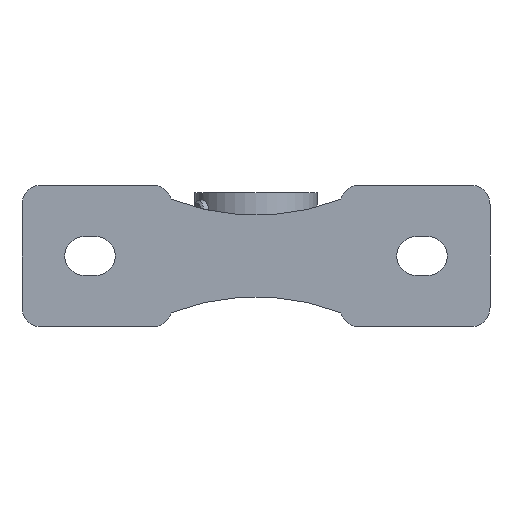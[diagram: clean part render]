
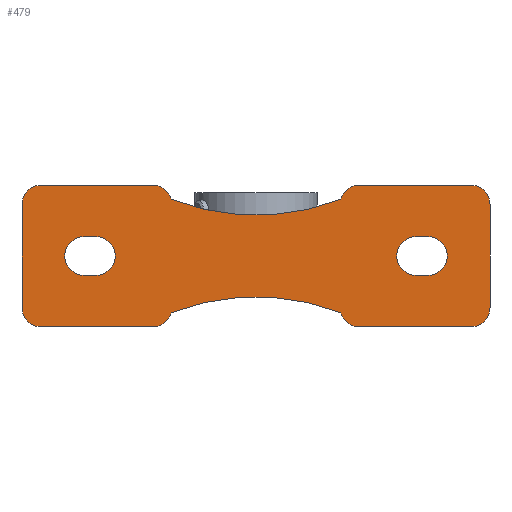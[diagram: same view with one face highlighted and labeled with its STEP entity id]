
A CAD part, front view. The second image highlights one B-rep face of the part: STEP entity #479.
In plain terms, the highlighted planar face has unit normal (0, -1, 0).
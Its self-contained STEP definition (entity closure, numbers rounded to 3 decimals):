
#262=CARTESIAN_POINT('',(0.,-63.5,0.));
#263=DIRECTION('',(0.0,1.0,0.0));
#264=DIRECTION('',(0.0,0.0,1.0));
#265=AXIS2_PLACEMENT_3D('',#262,#263,#264);
#266=PLANE('',#265);
#267=CARTESIAN_POINT('',(43.5,-63.5,29.162));
#268=VERTEX_POINT('',#267);
#269=CARTESIAN_POINT('',(53.139,-63.5,36.5));
#270=VERTEX_POINT('',#269);
#271=CARTESIAN_POINT('',(53.139,-63.5,26.5));
#272=DIRECTION('',(0.0,1.0,0.0));
#273=DIRECTION('',(-0.964,0.0,0.266));
#274=AXIS2_PLACEMENT_3D('',#271,#272,#273);
#275=CIRCLE('',#274,10.0);
#276=EDGE_CURVE('',#268,#270,#275,.T.);
#277=ORIENTED_EDGE('',*,*,#276,.F.);
#278=CARTESIAN_POINT('',(-43.5,-63.5,29.162));
#279=VERTEX_POINT('',#278);
#280=CARTESIAN_POINT('',(0.,-63.5,141.0));
#281=DIRECTION('',(0.0,-1.0,0.0));
#282=DIRECTION('',(1.0,0.0,0.0));
#283=AXIS2_PLACEMENT_3D('',#280,#281,#282);
#284=CIRCLE('',#283,120.0);
#285=EDGE_CURVE('',#279,#268,#284,.T.);
#286=ORIENTED_EDGE('',*,*,#285,.F.);
#287=CARTESIAN_POINT('',(-53.139,-63.5,36.5));
#288=VERTEX_POINT('',#287);
#289=CARTESIAN_POINT('',(-53.139,-63.5,26.5));
#290=DIRECTION('',(0.0,1.0,0.0));
#291=DIRECTION('',(0.964,0.0,0.266));
#292=AXIS2_PLACEMENT_3D('',#289,#290,#291);
#293=CIRCLE('',#292,10.);
#294=EDGE_CURVE('',#288,#279,#293,.T.);
#295=ORIENTED_EDGE('',*,*,#294,.F.);
#296=CARTESIAN_POINT('',(-110.5,-63.5,36.5));
#297=VERTEX_POINT('',#296);
#298=CARTESIAN_POINT('',(-110.5,-63.5,36.5));
#299=DIRECTION('',(1.0,0.0,0.0));
#300=VECTOR('',#299,57.361);
#301=LINE('',#298,#300);
#302=EDGE_CURVE('',#297,#288,#301,.T.);
#303=ORIENTED_EDGE('',*,*,#302,.F.);
#304=CARTESIAN_POINT('',(-120.5,-63.5,26.5));
#305=VERTEX_POINT('',#304);
#306=CARTESIAN_POINT('',(-110.5,-63.5,26.5));
#307=DIRECTION('',(0.0,1.0,0.0));
#308=DIRECTION('',(-0.707,0.0,0.707));
#309=AXIS2_PLACEMENT_3D('',#306,#307,#308);
#310=CIRCLE('',#309,10.);
#311=EDGE_CURVE('',#305,#297,#310,.T.);
#312=ORIENTED_EDGE('',*,*,#311,.F.);
#313=CARTESIAN_POINT('',(-120.5,-63.5,-26.5));
#314=VERTEX_POINT('',#313);
#315=CARTESIAN_POINT('',(-120.5,-63.5,-26.5));
#316=DIRECTION('',(0.0,0.0,1.0));
#317=VECTOR('',#316,53.);
#318=LINE('',#315,#317);
#319=EDGE_CURVE('',#314,#305,#318,.T.);
#320=ORIENTED_EDGE('',*,*,#319,.F.);
#321=CARTESIAN_POINT('',(-110.5,-63.5,-36.5));
#322=VERTEX_POINT('',#321);
#323=CARTESIAN_POINT('',(-110.5,-63.5,-26.5));
#324=DIRECTION('',(0.0,1.0,0.0));
#325=DIRECTION('',(-0.707,0.0,-0.707));
#326=AXIS2_PLACEMENT_3D('',#323,#324,#325);
#327=CIRCLE('',#326,10.0);
#328=EDGE_CURVE('',#322,#314,#327,.T.);
#329=ORIENTED_EDGE('',*,*,#328,.F.);
#330=CARTESIAN_POINT('',(-53.139,-63.5,-36.5));
#331=VERTEX_POINT('',#330);
#332=CARTESIAN_POINT('',(-53.139,-63.5,-36.5));
#333=DIRECTION('',(-1.0,0.0,0.0));
#334=VECTOR('',#333,57.361);
#335=LINE('',#332,#334);
#336=EDGE_CURVE('',#331,#322,#335,.T.);
#337=ORIENTED_EDGE('',*,*,#336,.F.);
#338=CARTESIAN_POINT('',(-43.5,-63.5,-29.162));
#339=VERTEX_POINT('',#338);
#340=CARTESIAN_POINT('',(-53.139,-63.5,-26.5));
#341=DIRECTION('',(0.0,1.0,0.0));
#342=DIRECTION('',(0.964,0.0,-0.266));
#343=AXIS2_PLACEMENT_3D('',#340,#341,#342);
#344=CIRCLE('',#343,10.);
#345=EDGE_CURVE('',#339,#331,#344,.T.);
#346=ORIENTED_EDGE('',*,*,#345,.F.);
#347=CARTESIAN_POINT('',(43.5,-63.5,-29.162));
#348=VERTEX_POINT('',#347);
#349=CARTESIAN_POINT('',(0.,-63.5,-141.0));
#350=DIRECTION('',(0.0,-1.0,0.0));
#351=DIRECTION('',(1.0,0.0,0.0));
#352=AXIS2_PLACEMENT_3D('',#349,#350,#351);
#353=CIRCLE('',#352,120.0);
#354=EDGE_CURVE('',#348,#339,#353,.T.);
#355=ORIENTED_EDGE('',*,*,#354,.F.);
#356=CARTESIAN_POINT('',(53.139,-63.5,-36.5));
#357=VERTEX_POINT('',#356);
#358=CARTESIAN_POINT('',(53.139,-63.5,-26.5));
#359=DIRECTION('',(0.0,1.0,0.0));
#360=DIRECTION('',(-0.964,0.0,-0.266));
#361=AXIS2_PLACEMENT_3D('',#358,#359,#360);
#362=CIRCLE('',#361,10.0);
#363=EDGE_CURVE('',#357,#348,#362,.T.);
#364=ORIENTED_EDGE('',*,*,#363,.F.);
#365=CARTESIAN_POINT('',(110.5,-63.5,-36.5));
#366=VERTEX_POINT('',#365);
#367=CARTESIAN_POINT('',(110.5,-63.5,-36.5));
#368=DIRECTION('',(-1.0,0.0,0.0));
#369=VECTOR('',#368,57.361);
#370=LINE('',#367,#369);
#371=EDGE_CURVE('',#366,#357,#370,.T.);
#372=ORIENTED_EDGE('',*,*,#371,.F.);
#373=CARTESIAN_POINT('',(120.5,-63.5,-26.5));
#374=VERTEX_POINT('',#373);
#375=CARTESIAN_POINT('',(110.5,-63.5,-26.5));
#376=DIRECTION('',(0.0,1.0,0.0));
#377=DIRECTION('',(0.707,0.0,-0.707));
#378=AXIS2_PLACEMENT_3D('',#375,#376,#377);
#379=CIRCLE('',#378,10.);
#380=EDGE_CURVE('',#374,#366,#379,.T.);
#381=ORIENTED_EDGE('',*,*,#380,.F.);
#382=CARTESIAN_POINT('',(120.5,-63.5,26.5));
#383=VERTEX_POINT('',#382);
#384=CARTESIAN_POINT('',(120.5,-63.5,26.5));
#385=DIRECTION('',(0.0,0.0,-1.0));
#386=VECTOR('',#385,53.0);
#387=LINE('',#384,#386);
#388=EDGE_CURVE('',#383,#374,#387,.T.);
#389=ORIENTED_EDGE('',*,*,#388,.F.);
#390=CARTESIAN_POINT('',(110.5,-63.5,36.5));
#391=VERTEX_POINT('',#390);
#392=CARTESIAN_POINT('',(110.5,-63.5,26.5));
#393=DIRECTION('',(0.0,1.0,0.0));
#394=DIRECTION('',(0.707,0.0,0.707));
#395=AXIS2_PLACEMENT_3D('',#392,#393,#394);
#396=CIRCLE('',#395,10.);
#397=EDGE_CURVE('',#391,#383,#396,.T.);
#398=ORIENTED_EDGE('',*,*,#397,.F.);
#399=CARTESIAN_POINT('',(53.139,-63.5,36.5));
#400=DIRECTION('',(1.0,0.0,0.0));
#401=VECTOR('',#400,57.361);
#402=LINE('',#399,#401);
#403=EDGE_CURVE('',#270,#391,#402,.T.);
#404=ORIENTED_EDGE('',*,*,#403,.F.);
#405=EDGE_LOOP('',(#277,#286,#295,#303,#312,#320,#329,#337,#346,#355,#364,#372,#381,#389,#398,#404));
#406=FACE_OUTER_BOUND('',#405,.T.);
#407=CARTESIAN_POINT('',(-82.5,-63.5,-10.));
#408=VERTEX_POINT('',#407);
#409=CARTESIAN_POINT('',(-82.5,-63.5,10.));
#410=VERTEX_POINT('',#409);
#411=CARTESIAN_POINT('',(-82.5,-63.5,0.0));
#412=DIRECTION('',(0.0,-1.0,0.0));
#413=DIRECTION('',(0.0,0.0,-1.0));
#414=AXIS2_PLACEMENT_3D('',#411,#412,#413);
#415=CIRCLE('',#414,10.);
#416=EDGE_CURVE('',#408,#410,#415,.T.);
#417=ORIENTED_EDGE('',*,*,#416,.F.);
#418=CARTESIAN_POINT('',(-88.5,-63.5,-10.));
#419=VERTEX_POINT('',#418);
#420=CARTESIAN_POINT('',(-88.5,-63.5,-10.));
#421=DIRECTION('',(1.0,0.0,0.0));
#422=VECTOR('',#421,6.);
#423=LINE('',#420,#422);
#424=EDGE_CURVE('',#419,#408,#423,.T.);
#425=ORIENTED_EDGE('',*,*,#424,.F.);
#426=CARTESIAN_POINT('',(-88.5,-63.5,10.));
#427=VERTEX_POINT('',#426);
#428=CARTESIAN_POINT('',(-88.5,-63.5,0.0));
#429=DIRECTION('',(0.0,-1.0,0.0));
#430=DIRECTION('',(0.0,0.0,1.0));
#431=AXIS2_PLACEMENT_3D('',#428,#429,#430);
#432=CIRCLE('',#431,10.);
#433=EDGE_CURVE('',#427,#419,#432,.T.);
#434=ORIENTED_EDGE('',*,*,#433,.F.);
#435=CARTESIAN_POINT('',(-82.5,-63.5,10.));
#436=DIRECTION('',(-1.0,0.0,0.0));
#437=VECTOR('',#436,6.);
#438=LINE('',#435,#437);
#439=EDGE_CURVE('',#410,#427,#438,.T.);
#440=ORIENTED_EDGE('',*,*,#439,.F.);
#441=EDGE_LOOP('',(#417,#425,#434,#440));
#442=FACE_BOUND('',#441,.T.);
#443=CARTESIAN_POINT('',(82.5,-63.5,-10.0));
#444=VERTEX_POINT('',#443);
#445=CARTESIAN_POINT('',(88.5,-63.5,-10.0));
#446=VERTEX_POINT('',#445);
#447=CARTESIAN_POINT('',(82.5,-63.5,-10.0));
#448=DIRECTION('',(1.0,0.0,0.0));
#449=VECTOR('',#448,6.);
#450=LINE('',#447,#449);
#451=EDGE_CURVE('',#444,#446,#450,.T.);
#452=ORIENTED_EDGE('',*,*,#451,.F.);
#453=CARTESIAN_POINT('',(82.5,-63.5,10.0));
#454=VERTEX_POINT('',#453);
#455=CARTESIAN_POINT('',(82.5,-63.5,0.0));
#456=DIRECTION('',(0.0,-1.0,0.0));
#457=DIRECTION('',(0.0,0.0,1.0));
#458=AXIS2_PLACEMENT_3D('',#455,#456,#457);
#459=CIRCLE('',#458,10.0);
#460=EDGE_CURVE('',#454,#444,#459,.T.);
#461=ORIENTED_EDGE('',*,*,#460,.F.);
#462=CARTESIAN_POINT('',(88.5,-63.5,10.0));
#463=VERTEX_POINT('',#462);
#464=CARTESIAN_POINT('',(88.5,-63.5,10.0));
#465=DIRECTION('',(-1.0,0.0,0.0));
#466=VECTOR('',#465,6.);
#467=LINE('',#464,#466);
#468=EDGE_CURVE('',#463,#454,#467,.T.);
#469=ORIENTED_EDGE('',*,*,#468,.F.);
#470=CARTESIAN_POINT('',(88.5,-63.5,0.0));
#471=DIRECTION('',(0.0,-1.0,0.0));
#472=DIRECTION('',(0.0,0.0,-1.0));
#473=AXIS2_PLACEMENT_3D('',#470,#471,#472);
#474=CIRCLE('',#473,10.0);
#475=EDGE_CURVE('',#446,#463,#474,.T.);
#476=ORIENTED_EDGE('',*,*,#475,.F.);
#477=EDGE_LOOP('',(#452,#461,#469,#476));
#478=FACE_BOUND('',#477,.T.);
#479=ADVANCED_FACE('',(#406,#442,#478),#266,.F.);
